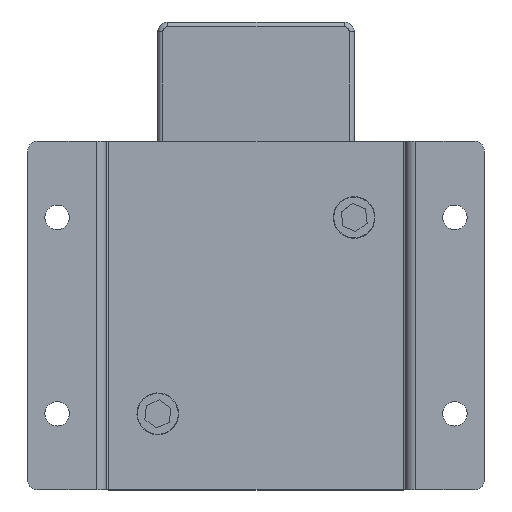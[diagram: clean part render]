
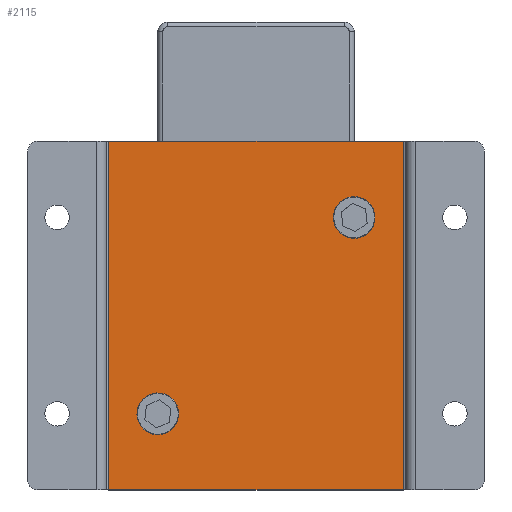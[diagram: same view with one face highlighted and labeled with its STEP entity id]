
A CAD part, top view. The second image highlights one B-rep face of the part: STEP entity #2115.
In plain terms, the highlighted planar face has unit normal (0, 0, 1) as drawn and (0, 0, -1) by its records, which use the part's own axes.
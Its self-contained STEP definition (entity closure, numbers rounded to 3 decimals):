
#339 = LINE ( 'NONE', #9318, #3882 ) ;
#396 = CARTESIAN_POINT ( 'NONE',  ( 30., 35.5, -1.5 ) ) ;
#404 = LINE ( 'NONE', #8342, #7846 ) ;
#408 = ORIENTED_EDGE ( 'NONE', *, *, #9621, .T. ) ;
#447 = EDGE_LOOP ( 'NONE', ( #408, #5843 ) ) ;
#506 = CARTESIAN_POINT ( 'NONE',  ( 30., -35.5, -1.5 ) ) ;
#808 = DIRECTION ( 'NONE',  ( 0., 0., 1. ) ) ;
#1060 = CIRCLE ( 'NONE', #12796, 2.75 ) ;
#1574 = DIRECTION ( 'NONE',  ( -1., 0., 0. ) ) ;
#2115 = ADVANCED_FACE ( 'NONE', ( #11403, #2417, #6031 ), #12849, .F. ) ;
#2117 = LINE ( 'NONE', #11907, #3937 ) ;
#2340 = DIRECTION ( 'NONE',  ( 0., 0., 1. ) ) ;
#2417 = FACE_BOUND ( 'NONE', #12278, .T. ) ;
#2576 = VERTEX_POINT ( 'NONE', #506 ) ;
#2737 = AXIS2_PLACEMENT_3D ( 'NONE', #10084, #7801, #12198 ) ;
#3140 = DIRECTION ( 'NONE',  ( 0., 1., 0. ) ) ;
#3630 = VERTEX_POINT ( 'NONE', #6860 ) ;
#3882 = VECTOR ( 'NONE', #6418, 1000. ) ;
#3894 = DIRECTION ( 'NONE',  ( 1., 0., 0. ) ) ;
#3937 = VECTOR ( 'NONE', #3140, 1000. ) ;
#4238 = EDGE_CURVE ( 'NONE', #2576, #8915, #404, .T. ) ;
#4263 = CARTESIAN_POINT ( 'NONE',  ( -22.75, 20., -1.5 ) ) ;
#4447 = CARTESIAN_POINT ( 'NONE',  ( -20., 20., -1.5 ) ) ;
#4737 = EDGE_CURVE ( 'NONE', #12299, #8377, #6378, .T. ) ;
#5027 = ORIENTED_EDGE ( 'NONE', *, *, #9360, .F. ) ;
#5114 = CARTESIAN_POINT ( 'NONE',  ( 17.25, -20., -1.5 ) ) ;
#5174 = EDGE_CURVE ( 'NONE', #3630, #7885, #13515, .T. ) ;
#5296 = CIRCLE ( 'NONE', #11187, 2.75 ) ;
#5723 = ORIENTED_EDGE ( 'NONE', *, *, #4238, .T. ) ;
#5843 = ORIENTED_EDGE ( 'NONE', *, *, #13412, .T. ) ;
#5892 = DIRECTION ( 'NONE',  ( 0., 0., 1. ) ) ;
#5929 = VERTEX_POINT ( 'NONE', #4263 ) ;
#5941 = EDGE_CURVE ( 'NONE', #2576, #8377, #2117, .T. ) ;
#6031 = FACE_OUTER_BOUND ( 'NONE', #6141, .T. ) ;
#6141 = EDGE_LOOP ( 'NONE', ( #6447, #5723, #5027, #9906 ) ) ;
#6378 = LINE ( 'NONE', #11100, #6904 ) ;
#6418 = DIRECTION ( 'NONE',  ( 0., -1., 0. ) ) ;
#6447 = ORIENTED_EDGE ( 'NONE', *, *, #5941, .F. ) ;
#6706 = AXIS2_PLACEMENT_3D ( 'NONE', #9577, #5892, #10317 ) ;
#6860 = CARTESIAN_POINT ( 'NONE',  ( 22.75, -20., -1.5 ) ) ;
#6904 = VECTOR ( 'NONE', #7563, 1000. ) ;
#7563 = DIRECTION ( 'NONE',  ( 1., 0., 0. ) ) ;
#7801 = DIRECTION ( 'NONE',  ( 0., 0., 1. ) ) ;
#7846 = VECTOR ( 'NONE', #1574, 1000. ) ;
#7885 = VERTEX_POINT ( 'NONE', #5114 ) ;
#8113 = CARTESIAN_POINT ( 'NONE',  ( -30., 35.5, -1.5 ) ) ;
#8134 = ORIENTED_EDGE ( 'NONE', *, *, #10812, .T. ) ;
#8169 = DIRECTION ( 'NONE',  ( 1., 0., 0. ) ) ;
#8342 = CARTESIAN_POINT ( 'NONE',  ( -30., -35.5, -1.5 ) ) ;
#8377 = VERTEX_POINT ( 'NONE', #396 ) ;
#8451 = DIRECTION ( 'NONE',  ( 0., 0., 1. ) ) ;
#8915 = VERTEX_POINT ( 'NONE', #12247 ) ;
#8925 = DIRECTION ( 'NONE',  ( 1., 0., 0. ) ) ;
#9107 = CARTESIAN_POINT ( 'NONE',  ( -17.25, 20., -1.5 ) ) ;
#9318 = CARTESIAN_POINT ( 'NONE',  ( -30., -40., -1.5 ) ) ;
#9360 = EDGE_CURVE ( 'NONE', #12299, #8915, #339, .T. ) ;
#9577 = CARTESIAN_POINT ( 'NONE',  ( 20., -20., -1.5 ) ) ;
#9591 = ORIENTED_EDGE ( 'NONE', *, *, #5174, .T. ) ;
#9621 = EDGE_CURVE ( 'NONE', #13742, #5929, #5296, .T. ) ;
#9906 = ORIENTED_EDGE ( 'NONE', *, *, #4737, .T. ) ;
#10084 = CARTESIAN_POINT ( 'NONE',  ( 20., -20., -1.5 ) ) ;
#10317 = DIRECTION ( 'NONE',  ( 1., 0., 0. ) ) ;
#10812 = EDGE_CURVE ( 'NONE', #7885, #3630, #13963, .T. ) ;
#11100 = CARTESIAN_POINT ( 'NONE',  ( -30., 35.5, -1.5 ) ) ;
#11187 = AXIS2_PLACEMENT_3D ( 'NONE', #12690, #2340, #8169 ) ;
#11403 = FACE_BOUND ( 'NONE', #447, .T. ) ;
#11907 = CARTESIAN_POINT ( 'NONE',  ( 30., -40., -1.5 ) ) ;
#12198 = DIRECTION ( 'NONE',  ( 1., 0., 0. ) ) ;
#12247 = CARTESIAN_POINT ( 'NONE',  ( -30., -35.5, -1.5 ) ) ;
#12278 = EDGE_LOOP ( 'NONE', ( #9591, #8134 ) ) ;
#12299 = VERTEX_POINT ( 'NONE', #8113 ) ;
#12464 = AXIS2_PLACEMENT_3D ( 'NONE', #13945, #8451, #3894 ) ;
#12690 = CARTESIAN_POINT ( 'NONE',  ( -20., 20., -1.5 ) ) ;
#12796 = AXIS2_PLACEMENT_3D ( 'NONE', #4447, #808, #8925 ) ;
#12849 = PLANE ( 'NONE',  #12464 ) ;
#13412 = EDGE_CURVE ( 'NONE', #5929, #13742, #1060, .T. ) ;
#13515 = CIRCLE ( 'NONE', #6706, 2.75 ) ;
#13742 = VERTEX_POINT ( 'NONE', #9107 ) ;
#13945 = CARTESIAN_POINT ( 'NONE',  ( -30., 40., -1.5 ) ) ;
#13963 = CIRCLE ( 'NONE', #2737, 2.75 ) ;
